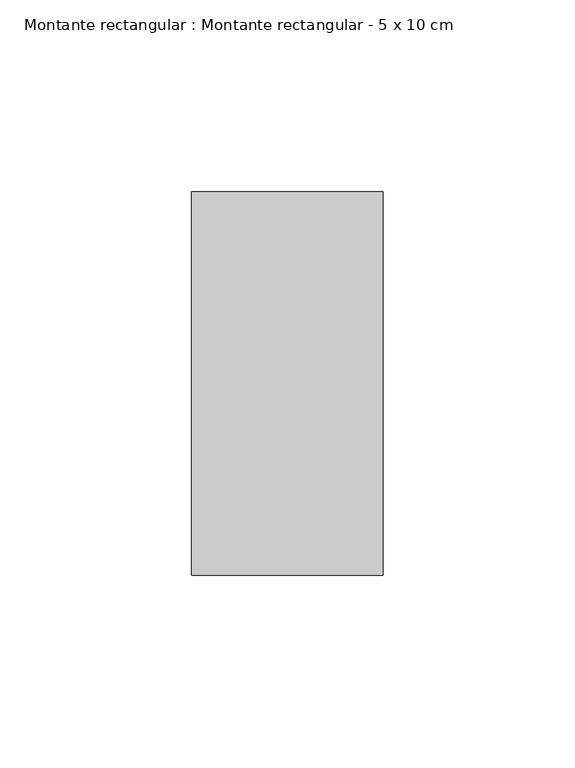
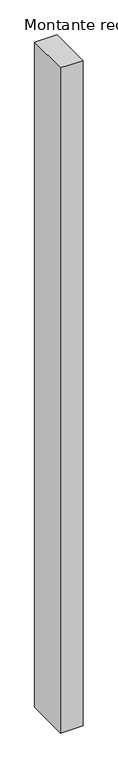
"""IFC4 building model written with IfcOpenShell, lengths in millimetres: member geometry, Montante rectangular : Montante rectangular - 5 x 10 cm."""

from ifc_helpers import new_model, si_unit, frame, origin, place, context, project, spatial, polyline, outline, extrude, source, transform, mapped, element, save


def montante_rectangular_montante_rectangular_5_x_10_cm_1bd0399d(model_context):
    return source(origin(), model_context, "Body", "SweptSolid", [
        extrude(outline(polyline([(0.0, 50.0), (0.0, -50.0), (-50.0, -50.0), (-50.0, 50.0), (0.0, 50.0)])), frame((0.0, 0.0, -1571.282747), z_axis=(0.0, 0.0, 1.0), x_axis=(1.0, 0.0, 0.0)), (0.0, 0.0, 1.0), 1571.282747),
    ])


if __name__ == "__main__":
    model = new_model("IFC4")
    model_context = context("Model", 3, world=origin())
    ifc_project = project(units=[si_unit("LENGTHUNIT", "METRE", prefix="MILLI")], contexts=[model_context])
    site = spatial("IfcSite", under=ifc_project)
    building = spatial("IfcBuilding", under=site)
    placement = place(None, origin())
    montante_rectangular_montante_rectangular_5_x_10_cm_shape = montante_rectangular_montante_rectangular_5_x_10_cm_1bd0399d(model_context)
    element("IfcMember", 1, ObjectType="Montante rectangular : Montante rectangular - 5 x 10 cm", at=placement, inside=building, context=model_context, shape_type="MappedRepresentation", body=[
        mapped(montante_rectangular_montante_rectangular_5_x_10_cm_shape, transform((0.0, 0.0, 0.0), x_axis=(1.0, 0.0, 0.0), y_axis=(0.0, 1.0, 0.0), z_axis=(0.0, 0.0, 1.0))),
    ])
    save(model, "model.ifc")
